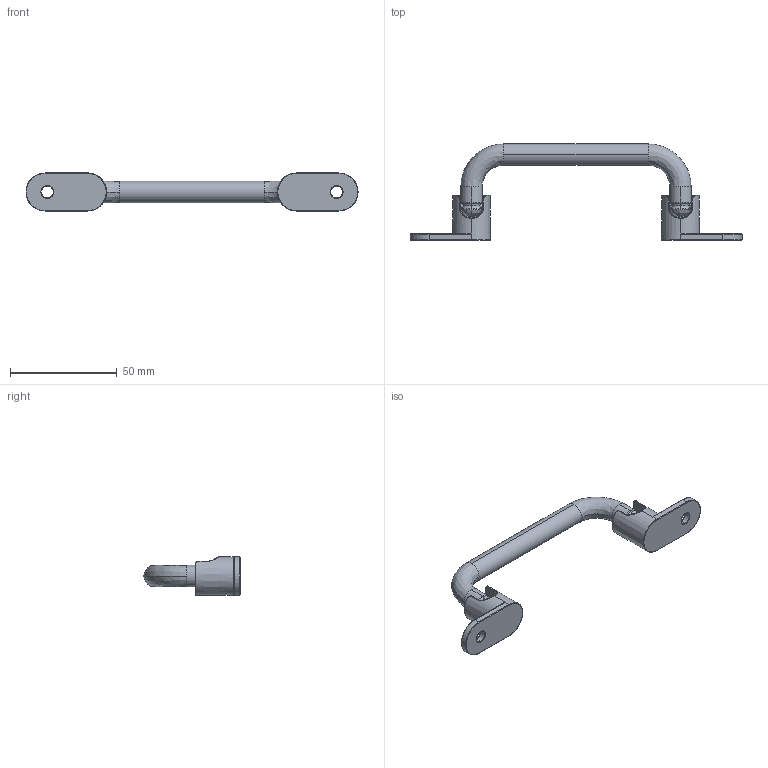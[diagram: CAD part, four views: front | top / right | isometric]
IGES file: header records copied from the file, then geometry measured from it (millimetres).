
Start section: SolidWorks IGES file using analytic representation for surfaces
Global section: file name: G:\HDS-501-1.IGS; native system: SolidWorks 2016; preprocessor: SolidWorks 2016; author: death; date: 210423.150154; units: millimetre
Bounding box: 155.4 x 45 x 17.8 mm (x, y, z)
Surface area: 10122.8 mm2 (no closed solid volume)
Topology: 0 solids, 0 shells, 144 faces, 1867 edges, 1838 vertices
Faces by surface type: bspline 84, revolution 60
